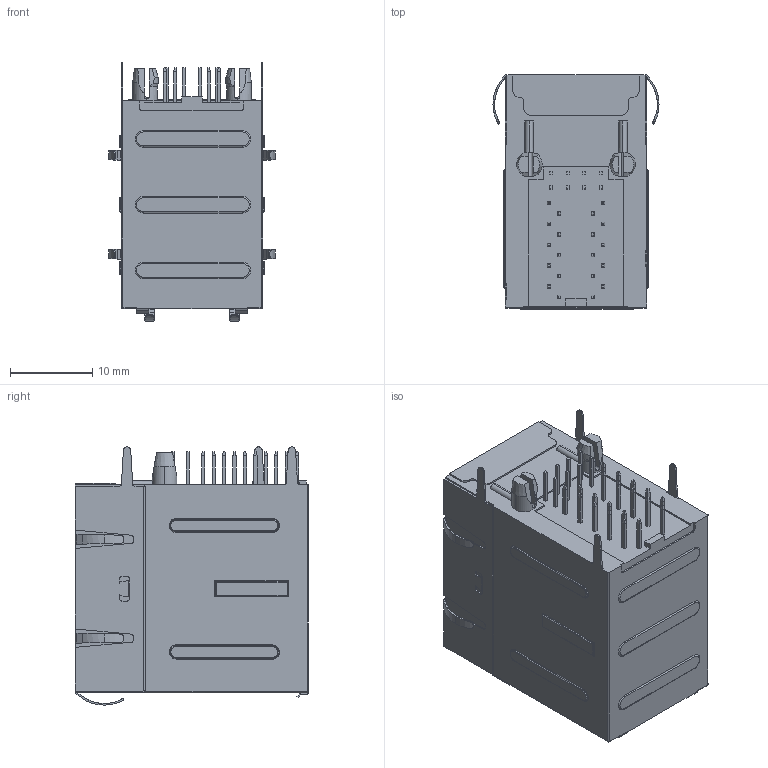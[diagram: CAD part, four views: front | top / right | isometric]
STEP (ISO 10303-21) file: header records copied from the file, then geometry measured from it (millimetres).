
FILE_DESCRIPTION (( 'STEP AP203' ), '1' );
FILE_NAME ('LD ぱ籵2x1 20190505.STEP', '2019-05-05T06:54:43', ( 'admin' ), ( '' ), 'SwSTEP 2.0', 'SolidWorks 2012', '' );
FILE_SCHEMA (( 'CONFIG_CONTROL_DESIGN' ));
Length unit declared in the file: millimetre
Products named in the file (6): LD ぱ籵2x1 20190505; ぱ籵2x15-4_1; ぱ籵2x14-4_1; ぱ籵2x13-4_1; ぱ籵2x12-4_1; ぱ籵2x11-4_1
Assembly tree (5 placements, depth 2):
  LD ぱ籵2x1 20190505
    ぱ籵2x11-4_1
    ぱ籵2x12-4_1
    ぱ籵2x13-4_1
    ぱ籵2x14-4_1
    ぱ籵2x15-4_1
Bounding box: 20.21 x 28.45 x 31.44 mm (x, y, z)
Volume: 9831.7 mm3; surface area: 6280.6 mm2
Topology: 5 solids, 5 shells, 955 faces, 2521 edges, 1624 vertices
Faces by surface type: plane 688, cylinder 215, bspline 33, cone 11, torus 8
Entity records: 30888 total; most frequent: CARTESIAN_POINT 7037, ORIENTED_EDGE 5042, DIRECTION 4477, EDGE_CURVE 2521, VECTOR 1959, LINE 1959, VERTEX_POINT 1624, AXIS2_PLACEMENT_3D 1259
